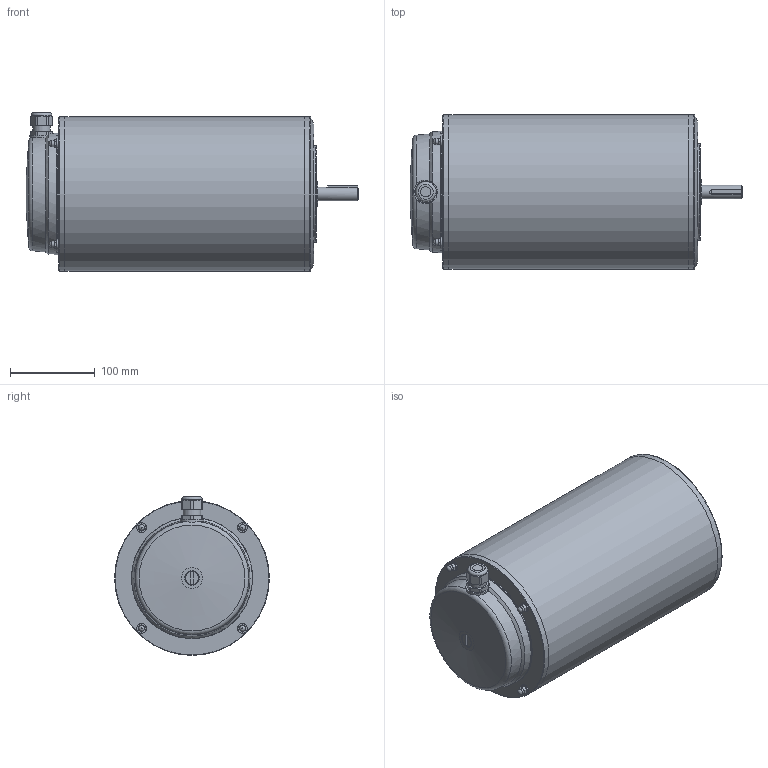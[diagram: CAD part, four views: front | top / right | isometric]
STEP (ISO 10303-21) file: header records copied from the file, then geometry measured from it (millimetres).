
FILE_DESCRIPTION(/* description */ ('Unknown'),/* implementation_level */ '2;1');
FILE_NAME(/* name */ 'APMWHF4WTUNN4KCR2-N---NNN',/* time_stamp */ '2024-03-15T08:25:08+01:00',/* author */ ('Unknown'),/* organization */ ('Unknown'),/* preprocessor_version */ 'ST-DEVELOPER v18.104',/* originating_system */ 'Solid Edge',/* authorisation */ 'Unknown');
FILE_SCHEMA (('AUTOMOTIVE_DESIGN {1 0 10303 214 3 1 1}'));
Length unit declared in the file: millimetre
Products named in the file (1): APMWHF4WTUNN4KCR2-N---NNN
Bounding box: 391.6 x 182.6 x 187.3 mm (x, y, z)
Volume: 8409911.4 mm3; surface area: 250427.1 mm2
Topology: 1 solids, 1 shells, 156 faces, 349 edges, 224 vertices
Faces by surface type: plane 80, cylinder 49, cone 18, torus 9
Full cylindrical faces by diameter (mm): 4.976 x2, 6.5 x1, 7 x4, 7.805 x8, 11.5 x4, 12 x1, 15.875 x1, 20.6 x1, 23.7 x1, 30 x1, 82 x1, 114.3 x1, 143 x1, 182.599 x1, 182.6 x2
Entity records: 5116 total; most frequent: CARTESIAN_POINT 750, DIRECTION 689, ORIENTED_EDGE 568, EDGE_CURVE 284, AXIS2_PLACEMENT_3D 272, FACE_BOUND 238, EDGE_LOOP 237, VERTEX_POINT 212
